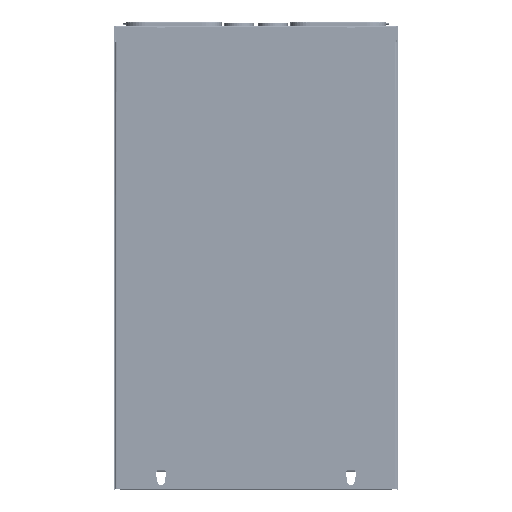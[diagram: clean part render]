
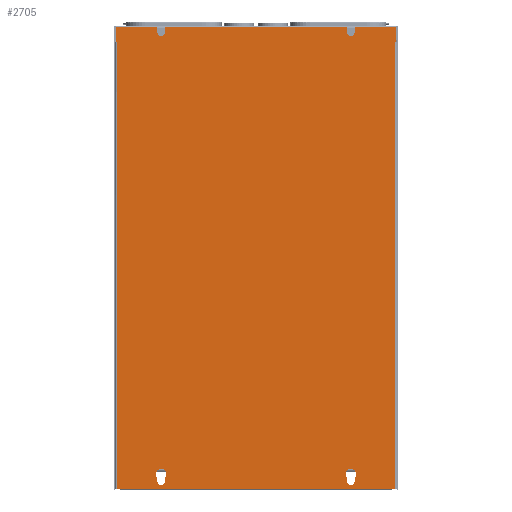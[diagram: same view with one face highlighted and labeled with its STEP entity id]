
A CAD part, front view. The second image highlights one B-rep face of the part: STEP entity #2705.
In plain terms, the highlighted planar face has unit normal (0, -1, 0).
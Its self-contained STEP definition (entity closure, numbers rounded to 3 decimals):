
#326=DIRECTION('',(-1.,0.,0.));
#327=VECTOR('',#326,173.);
#328=CARTESIAN_POINT('',(86.5,-1.2,218.8));
#329=LINE('',#328,#327);
#340=DIRECTION('',(0.,0.,1.));
#341=VECTOR('',#340,4.8);
#342=CARTESIAN_POINT('',(-86.5,-1.2,214.));
#343=LINE('',#342,#341);
#347=CARTESIAN_POINT('',(90.,-1.2,214.));
#348=DIRECTION('',(0.,-1.,0.));
#349=DIRECTION('',(-1.,0.,0.));
#350=AXIS2_PLACEMENT_3D('',#347,#348,#349);
#355=DIRECTION('',(0.,0.,1.));
#356=VECTOR('',#355,4.8);
#357=CARTESIAN_POINT('',(93.5,-1.2,214.));
#358=LINE('',#357,#356);
#362=DIRECTION('',(-1.,0.,0.));
#363=VECTOR('',#362,0.5);
#364=CARTESIAN_POINT('',(132.6,-1.2,204.8));
#365=LINE('',#364,#363);
#369=DIRECTION('',(-1.,0.,0.));
#370=VECTOR('',#369,3.);
#371=CARTESIAN_POINT('',(132.1,-1.2,-218.8));
#372=LINE('',#371,#370);
#376=DIRECTION('',(-1.,0.,0.));
#377=VECTOR('',#376,3.);
#378=CARTESIAN_POINT('',(-129.1,-1.2,-218.8));
#379=LINE('',#378,#377);
#383=CARTESIAN_POINT('',(-90.,-1.2,214.));
#384=DIRECTION('',(0.,-1.,0.));
#385=DIRECTION('',(-1.,0.,0.));
#386=AXIS2_PLACEMENT_3D('',#383,#384,#385);
#391=CARTESIAN_POINT('',(90.,-1.2,-212.));
#392=DIRECTION('',(0.,-1.,0.));
#393=DIRECTION('',(-1.,0.,0.));
#394=AXIS2_PLACEMENT_3D('',#391,#392,#393);
#399=CARTESIAN_POINT('',(90.,-1.2,-205.));
#400=DIRECTION('',(0.,-1.,0.));
#401=DIRECTION('',(0.7,0.,-0.714));
#402=AXIS2_PLACEMENT_3D('',#399,#400,#401);
#407=CARTESIAN_POINT('',(90.,-1.2,-205.));
#408=DIRECTION('',(0.,-1.,0.));
#409=DIRECTION('',(0.7,0.,0.714));
#410=AXIS2_PLACEMENT_3D('',#407,#408,#409);
#415=CARTESIAN_POINT('',(-90.,-1.2,-205.));
#416=DIRECTION('',(0.,-1.,0.));
#417=DIRECTION('',(0.7,0.,-0.714));
#418=AXIS2_PLACEMENT_3D('',#415,#416,#417);
#423=CARTESIAN_POINT('',(-90.,-1.2,-205.));
#424=DIRECTION('',(0.,-1.,0.));
#425=DIRECTION('',(0.7,0.,0.714));
#426=AXIS2_PLACEMENT_3D('',#423,#424,#425);
#431=CARTESIAN_POINT('',(-90.,-1.2,-212.));
#432=DIRECTION('',(0.,-1.,0.));
#433=DIRECTION('',(-1.,0.,0.));
#434=AXIS2_PLACEMENT_3D('',#431,#432,#433);
#439=DIRECTION('',(0.,0.,1.));
#440=VECTOR('',#439,4.8);
#441=CARTESIAN_POINT('',(86.5,-1.2,214.));
#442=LINE('',#441,#440);
#555=DIRECTION('',(-1.,0.,0.));
#556=VECTOR('',#555,36.1);
#557=CARTESIAN_POINT('',(129.6,-1.2,218.8));
#558=LINE('',#557,#556);
#592=DIRECTION('',(-1.,0.,0.));
#593=VECTOR('',#592,3.);
#594=CARTESIAN_POINT('',(132.6,-1.2,218.8));
#595=LINE('',#594,#593);
#599=DIRECTION('',(0.,0.,1.));
#600=VECTOR('',#599,14.);
#601=CARTESIAN_POINT('',(132.6,-1.2,204.8));
#602=LINE('',#601,#600);
#657=DIRECTION('',(0.,0.,1.));
#658=VECTOR('',#657,423.6);
#659=CARTESIAN_POINT('',(132.1,-1.2,-218.8));
#660=LINE('',#659,#658);
#1343=DIRECTION('',(0.,0.,-1.));
#1344=VECTOR('',#1343,423.6);
#1345=CARTESIAN_POINT('',(-132.1,-1.2,204.8));
#1346=LINE('',#1345,#1344);
#1647=DIRECTION('',(1.,0.,0.));
#1648=VECTOR('',#1647,0.5);
#1649=CARTESIAN_POINT('',(-132.6,-1.2,204.8));
#1650=LINE('',#1649,#1648);
#1661=DIRECTION('',(0.,0.,-1.));
#1662=VECTOR('',#1661,14.);
#1663=CARTESIAN_POINT('',(-132.6,-1.2,218.8));
#1664=LINE('',#1663,#1662);
#1668=DIRECTION('',(-1.,0.,0.));
#1669=VECTOR('',#1668,3.);
#1670=CARTESIAN_POINT('',(-129.6,-1.2,218.8));
#1671=LINE('',#1670,#1669);
#1754=DIRECTION('',(-1.,0.,0.));
#1755=VECTOR('',#1754,36.1);
#1756=CARTESIAN_POINT('',(-93.5,-1.2,218.8));
#1757=LINE('',#1756,#1755);
#1791=DIRECTION('',(0.,0.,1.));
#1792=VECTOR('',#1791,4.8);
#1793=CARTESIAN_POINT('',(-93.5,-1.2,214.));
#1794=LINE('',#1793,#1792);
#1896=DIRECTION('',(1.,0.,0.));
#1897=VECTOR('',#1896,258.2);
#1898=CARTESIAN_POINT('',(-129.1,-1.2,-218.8));
#1899=LINE('',#1898,#1897);
#1980=DIRECTION('',(0.,0.,-1.));
#1981=VECTOR('',#1980,3.429);
#1982=CARTESIAN_POINT('',(93.5,-1.2,-208.571));
#1983=LINE('',#1982,#1981);
#2001=DIRECTION('',(0.,0.,1.));
#2002=VECTOR('',#2001,3.429);
#2003=CARTESIAN_POINT('',(86.5,-1.2,-212.));
#2004=LINE('',#2003,#2002);
#2008=DIRECTION('',(0.,0.,-1.));
#2009=VECTOR('',#2008,3.429);
#2010=CARTESIAN_POINT('',(-86.5,-1.2,-208.571));
#2011=LINE('',#2010,#2009);
#2029=DIRECTION('',(0.,0.,1.));
#2030=VECTOR('',#2029,3.429);
#2031=CARTESIAN_POINT('',(-93.5,-1.2,-212.));
#2032=LINE('',#2031,#2030);
#2146=CARTESIAN_POINT('',(-86.5,-1.2,-208.571));
#2147=VERTEX_POINT('',#2146);
#2148=CARTESIAN_POINT('',(-86.5,-1.2,-212.));
#2149=VERTEX_POINT('',#2148);
#2150=CARTESIAN_POINT('',(-93.5,-1.2,-208.571));
#2151=VERTEX_POINT('',#2150);
#2152=CARTESIAN_POINT('',(-86.5,-1.2,-201.429));
#2153=VERTEX_POINT('',#2152);
#2154=CARTESIAN_POINT('',(-93.5,-1.2,-212.));
#2155=VERTEX_POINT('',#2154);
#2156=CARTESIAN_POINT('',(-86.5,-1.2,214.));
#2157=CARTESIAN_POINT('',(-86.5,-1.2,218.8));
#2158=VERTEX_POINT('',#2156);
#2159=VERTEX_POINT('',#2157);
#2160=CARTESIAN_POINT('',(86.5,-1.2,218.8));
#2161=VERTEX_POINT('',#2160);
#2162=CARTESIAN_POINT('',(86.5,-1.2,214.));
#2163=VERTEX_POINT('',#2162);
#2164=CARTESIAN_POINT('',(93.5,-1.2,214.));
#2165=VERTEX_POINT('',#2164);
#2166=CARTESIAN_POINT('',(93.5,-1.2,218.8));
#2167=VERTEX_POINT('',#2166);
#2168=CARTESIAN_POINT('',(129.6,-1.2,218.8));
#2169=VERTEX_POINT('',#2168);
#2170=CARTESIAN_POINT('',(132.6,-1.2,218.8));
#2171=VERTEX_POINT('',#2170);
#2172=CARTESIAN_POINT('',(132.6,-1.2,204.8));
#2173=VERTEX_POINT('',#2172);
#2174=CARTESIAN_POINT('',(132.1,-1.2,204.8));
#2175=VERTEX_POINT('',#2174);
#2176=CARTESIAN_POINT('',(132.1,-1.2,-218.8));
#2177=VERTEX_POINT('',#2176);
#2178=CARTESIAN_POINT('',(129.1,-1.2,-218.8));
#2179=VERTEX_POINT('',#2178);
#2180=CARTESIAN_POINT('',(-129.1,-1.2,-218.8));
#2181=VERTEX_POINT('',#2180);
#2182=CARTESIAN_POINT('',(-132.1,-1.2,-218.8));
#2183=VERTEX_POINT('',#2182);
#2184=CARTESIAN_POINT('',(-132.1,-1.2,204.8));
#2185=VERTEX_POINT('',#2184);
#2186=CARTESIAN_POINT('',(-132.6,-1.2,204.8));
#2187=VERTEX_POINT('',#2186);
#2188=CARTESIAN_POINT('',(-132.6,-1.2,218.8));
#2189=VERTEX_POINT('',#2188);
#2190=CARTESIAN_POINT('',(-129.6,-1.2,218.8));
#2191=VERTEX_POINT('',#2190);
#2192=CARTESIAN_POINT('',(-93.5,-1.2,218.8));
#2193=VERTEX_POINT('',#2192);
#2194=CARTESIAN_POINT('',(-93.5,-1.2,214.));
#2195=VERTEX_POINT('',#2194);
#2196=CARTESIAN_POINT('',(86.5,-1.2,-212.));
#2197=CARTESIAN_POINT('',(93.5,-1.2,-212.));
#2198=VERTEX_POINT('',#2196);
#2199=VERTEX_POINT('',#2197);
#2200=CARTESIAN_POINT('',(93.5,-1.2,-208.571));
#2201=VERTEX_POINT('',#2200);
#2202=CARTESIAN_POINT('',(93.5,-1.2,-201.429));
#2203=CARTESIAN_POINT('',(86.5,-1.2,-208.571));
#2204=VERTEX_POINT('',#2202);
#2205=VERTEX_POINT('',#2203);
#2636=CARTESIAN_POINT('',(0.,-1.2,0.));
#2637=DIRECTION('',(0.,1.,0.));
#2638=DIRECTION('',(1.,0.,0.));
#2639=AXIS2_PLACEMENT_3D('',#2636,#2637,#2638);
#2640=PLANE('',#2639);
#2641=ORIENTED_EDGE('',*,*,#2577,.T.);
#2642=ORIENTED_EDGE('',*,*,#2617,.F.);
#2644=ORIENTED_EDGE('',*,*,#2643,.F.);
#2646=ORIENTED_EDGE('',*,*,#2645,.T.);
#2648=ORIENTED_EDGE('',*,*,#2647,.T.);
#2650=ORIENTED_EDGE('',*,*,#2649,.F.);
#2652=ORIENTED_EDGE('',*,*,#2651,.F.);
#2654=ORIENTED_EDGE('',*,*,#2653,.F.);
#2656=ORIENTED_EDGE('',*,*,#2655,.T.);
#2658=ORIENTED_EDGE('',*,*,#2657,.F.);
#2660=ORIENTED_EDGE('',*,*,#2659,.T.);
#2662=ORIENTED_EDGE('',*,*,#2661,.F.);
#2664=ORIENTED_EDGE('',*,*,#2663,.T.);
#2666=ORIENTED_EDGE('',*,*,#2665,.F.);
#2668=ORIENTED_EDGE('',*,*,#2667,.F.);
#2670=ORIENTED_EDGE('',*,*,#2669,.F.);
#2672=ORIENTED_EDGE('',*,*,#2671,.F.);
#2674=ORIENTED_EDGE('',*,*,#2673,.F.);
#2676=ORIENTED_EDGE('',*,*,#2675,.F.);
#2678=ORIENTED_EDGE('',*,*,#2677,.T.);
#2679=EDGE_LOOP('',(#2641,#2642,#2644,#2646,#2648,#2650,#2652,#2654,#2656,#2658,
#2660,#2662,#2664,#2666,#2668,#2670,#2672,#2674,#2676,#2678));
#2680=FACE_OUTER_BOUND('',#2679,.F.);
#2682=ORIENTED_EDGE('',*,*,#2681,.T.);
#2684=ORIENTED_EDGE('',*,*,#2683,.F.);
#2686=ORIENTED_EDGE('',*,*,#2685,.T.);
#2688=ORIENTED_EDGE('',*,*,#2687,.T.);
#2690=ORIENTED_EDGE('',*,*,#2689,.F.);
#2691=EDGE_LOOP('',(#2682,#2684,#2686,#2688,#2690));
#2692=FACE_BOUND('',#2691,.F.);
#2694=ORIENTED_EDGE('',*,*,#2693,.F.);
#2696=ORIENTED_EDGE('',*,*,#2695,.T.);
#2698=ORIENTED_EDGE('',*,*,#2697,.T.);
#2700=ORIENTED_EDGE('',*,*,#2699,.F.);
#2702=ORIENTED_EDGE('',*,*,#2701,.T.);
#2703=EDGE_LOOP('',(#2694,#2696,#2698,#2700,#2702));
#2704=FACE_BOUND('',#2703,.F.);
#351=CIRCLE('',#350,3.5);
#387=CIRCLE('',#386,3.5);
#395=CIRCLE('',#394,3.5);
#403=CIRCLE('',#402,5.);
#411=CIRCLE('',#410,5.);
#419=CIRCLE('',#418,5.);
#427=CIRCLE('',#426,5.);
#435=CIRCLE('',#434,3.5);
#2577=EDGE_CURVE('',#2158,#2159,#343,.T.);
#2617=EDGE_CURVE('',#2161,#2159,#329,.T.);
#2643=EDGE_CURVE('',#2163,#2161,#442,.T.);
#2645=EDGE_CURVE('',#2163,#2165,#351,.T.);
#2647=EDGE_CURVE('',#2165,#2167,#358,.T.);
#2649=EDGE_CURVE('',#2169,#2167,#558,.T.);
#2651=EDGE_CURVE('',#2171,#2169,#595,.T.);
#2653=EDGE_CURVE('',#2173,#2171,#602,.T.);
#2655=EDGE_CURVE('',#2173,#2175,#365,.T.);
#2657=EDGE_CURVE('',#2177,#2175,#660,.T.);
#2659=EDGE_CURVE('',#2177,#2179,#372,.T.);
#2661=EDGE_CURVE('',#2181,#2179,#1899,.T.);
#2663=EDGE_CURVE('',#2181,#2183,#379,.T.);
#2665=EDGE_CURVE('',#2185,#2183,#1346,.T.);
#2667=EDGE_CURVE('',#2187,#2185,#1650,.T.);
#2669=EDGE_CURVE('',#2189,#2187,#1664,.T.);
#2671=EDGE_CURVE('',#2191,#2189,#1671,.T.);
#2673=EDGE_CURVE('',#2193,#2191,#1757,.T.);
#2675=EDGE_CURVE('',#2195,#2193,#1794,.T.);
#2677=EDGE_CURVE('',#2195,#2158,#387,.T.);
#2681=EDGE_CURVE('',#2198,#2199,#395,.T.);
#2683=EDGE_CURVE('',#2201,#2199,#1983,.T.);
#2685=EDGE_CURVE('',#2201,#2204,#403,.T.);
#2687=EDGE_CURVE('',#2204,#2205,#411,.T.);
#2689=EDGE_CURVE('',#2198,#2205,#2004,.T.);
#2693=EDGE_CURVE('',#2147,#2149,#2011,.T.);
#2695=EDGE_CURVE('',#2147,#2153,#419,.T.);
#2697=EDGE_CURVE('',#2153,#2151,#427,.T.);
#2699=EDGE_CURVE('',#2155,#2151,#2032,.T.);
#2701=EDGE_CURVE('',#2155,#2149,#435,.T.);
#2705=ADVANCED_FACE('',(#2680,#2692,#2704),#2640,.F.);
